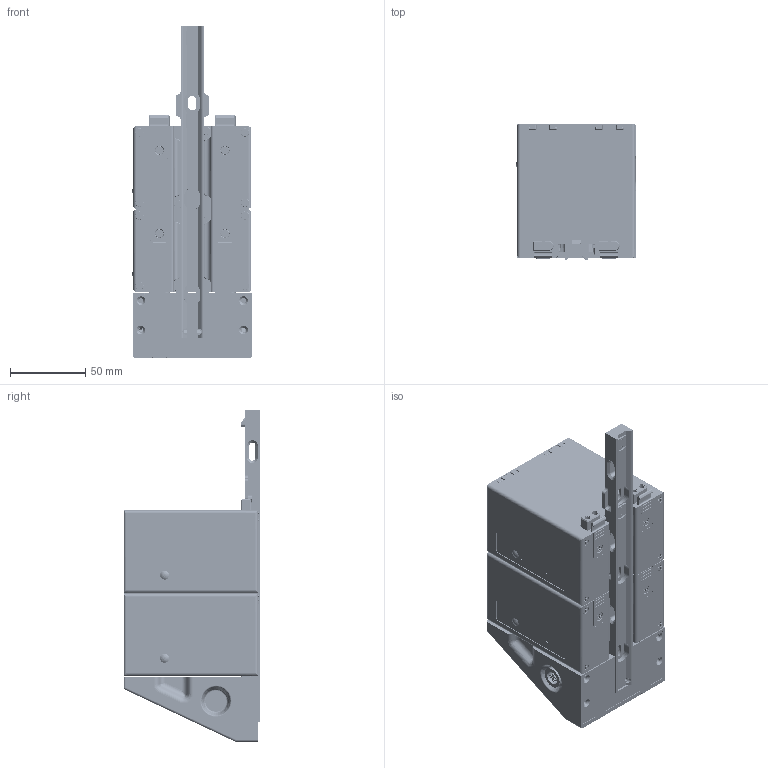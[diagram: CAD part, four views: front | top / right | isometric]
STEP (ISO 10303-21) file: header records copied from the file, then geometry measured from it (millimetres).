
FILE_DESCRIPTION (( 'STEP AP214' ), '1' );
FILE_NAME ('LGX 2X Basic Dock.STEP', '2025-11-04T01:07:59', ( '' ), ( '' ), 'SwSTEP 2.0', 'SolidWorks 2021', '' );
FILE_SCHEMA (( 'AUTOMOTIVE_DESIGN' ));
Length unit declared in the file: millimetre
Products named in the file (21): LXG Single Module_B2 Rear Locked; LGX Cell Assembly; LXG Single Module_B2 Front Locked; LGX-Rail_Rail x3; M3 Screw_M3x5; LGX_TLock; LGX 2X Basic Dock; LGX-Latch; LiGo 10X PCB P5; LGX-Encl_Extrusion Profile; XT60F; LGX-Dock R3_Dock Only; LG10X-Top_InjectionMolding; LGX-Ovl; LGX-Base_InjectionMolded; ST3 Plug; LGX-Dock R3_Shell Only; XT60M; M3 Screw_M3x12; M3 Screw_M3x18
Assembly tree (67 placements, depth 4):
  LGX 2X Basic Dock
    LGX-Rail_Rail x3
    LGX-Dock R3_Dock Only
    XT60F  x2
    LGX-Dock R3_Shell Only
    LXG Single Module_B2 Front Locked
      LG10X-Top_InjectionMolding
      LGX-Encl_Extrusion Profile
      LGX-Base_InjectionMolded
      LGX Cell Assembly
        XT60F  x2
        XT60M  x2
        LiGo 10X PCB P5
      LGX-Latch  x2
      LGX-Ovl
      LGX_TLock  x4
      M3 Screw_M3x18  x4
      M3 Screw_M3x5  x2
      M3 Screw_M3x12  x8
    LXG Single Module_B2 Rear Locked
      LG10X-Top_InjectionMolding
      LGX-Encl_Extrusion Profile
      LGX-Base_InjectionMolded
      LGX Cell Assembly
        XT60F  x2
        XT60M  x2
      LGX-Latch  x2
      LGX-Ovl
      LGX_TLock  x4
      M3 Screw_M3x18  x4
      M3 Screw_M3x5  x2
      M3 Screw_M3x12  x8
    ST3 Plug
Bounding box: 79.35 x 90.67 x 220.11 mm (x, y, z)
Volume: 311934.7 mm3; surface area: 251602.4 mm2
Topology: 97 solids, 97 shells, 9343 faces, 23133 edges, 13848 vertices
Faces by surface type: cylinder 3168, plane 2569, bspline 2088, torus 980, cone 500, sphere 38
Entity records: 149000 total; most frequent: CARTESIAN_POINT 48791, ORIENTED_EDGE 21112, DIRECTION 18987, EDGE_CURVE 10556, AXIS2_PLACEMENT_3D 7215, VERTEX_POINT 6421, LINE 4557, VECTOR 4557
